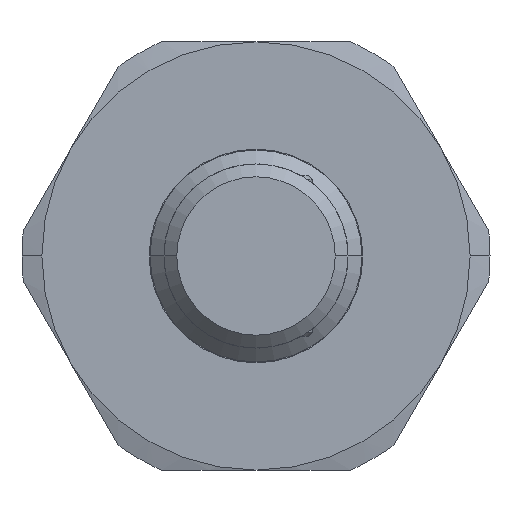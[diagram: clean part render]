
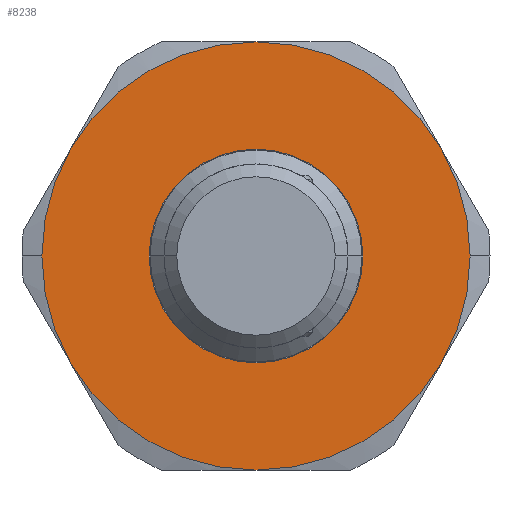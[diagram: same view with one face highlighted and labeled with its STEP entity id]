
A CAD part, left-side view. The second image highlights one B-rep face of the part: STEP entity #8238.
In plain terms, the highlighted planar face has unit normal (-1, 0, 0).
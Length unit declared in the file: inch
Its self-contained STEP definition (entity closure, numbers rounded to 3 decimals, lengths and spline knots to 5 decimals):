
#2708=CARTESIAN_POINT('',(-0.219,-0.5,0.));
#2709=VERTEX_POINT('',#2708);
#2716=CARTESIAN_POINT('',(-0.219,-0.43301,-0.25));
#2717=VERTEX_POINT('',#2716);
#2718=CARTESIAN_POINT('',(-0.219,0.0,0.0));
#2719=DIRECTION('',(-1.0,0.0,0.0));
#2720=DIRECTION('',(0.0,1.0,0.0));
#2721=AXIS2_PLACEMENT_3D('',#2718,#2719,#2720);
#2722=CIRCLE('',#2721,0.5);
#2723=EDGE_CURVE('',#2717,#2709,#2722,.T.);
#2755=CARTESIAN_POINT('',(-0.219,0.5,0.));
#2756=VERTEX_POINT('',#2755);
#2764=CARTESIAN_POINT('',(-0.219,0.43301,-0.25));
#2765=VERTEX_POINT('',#2764);
#2779=CARTESIAN_POINT('',(-0.219,0.0,0.0));
#2780=DIRECTION('',(-1.0,0.0,0.0));
#2781=DIRECTION('',(0.0,1.0,0.0));
#2782=AXIS2_PLACEMENT_3D('',#2779,#2780,#2781);
#2783=CIRCLE('',#2782,0.5);
#2784=EDGE_CURVE('',#2756,#2765,#2783,.T.);
#3198=CARTESIAN_POINT('',(-0.219,-0.2495,0.0));
#3199=VERTEX_POINT('',#3198);
#3208=CARTESIAN_POINT('',(-0.219,0.2495,0.));
#3209=VERTEX_POINT('',#3208);
#3210=CARTESIAN_POINT('',(-0.219,0.,0.0));
#3211=DIRECTION('',(1.0,0.0,0.0));
#3212=DIRECTION('',(0.0,-1.0,0.0));
#3213=AXIS2_PLACEMENT_3D('',#3210,#3211,#3212);
#3214=CIRCLE('',#3213,0.2495);
#3215=EDGE_CURVE('',#3209,#3199,#3214,.T.);
#7889=CARTESIAN_POINT('',(-0.219,0.,0.0));
#7890=DIRECTION('',(1.0,0.0,0.0));
#7891=DIRECTION('',(0.0,-1.0,0.0));
#7892=AXIS2_PLACEMENT_3D('',#7889,#7890,#7891);
#7893=CIRCLE('',#7892,0.2495);
#7894=EDGE_CURVE('',#3199,#3209,#7893,.T.);
#8175=CARTESIAN_POINT('',(-0.219,0.0,0.0));
#8176=DIRECTION('',(1.0,0.0,0.0));
#8177=DIRECTION('',(0.0,1.0,0.0));
#8178=AXIS2_PLACEMENT_3D('',#8175,#8176,#8177);
#8179=PLANE('',#8178);
#8180=CARTESIAN_POINT('',(-0.219,0.0,-0.5));
#8181=VERTEX_POINT('',#8180);
#8182=CARTESIAN_POINT('',(-0.219,0.0,0.0));
#8183=DIRECTION('',(-1.0,0.0,0.0));
#8184=DIRECTION('',(0.0,1.0,0.0));
#8185=AXIS2_PLACEMENT_3D('',#8182,#8183,#8184);
#8186=CIRCLE('',#8185,0.5);
#8187=EDGE_CURVE('',#2765,#8181,#8186,.T.);
#8188=ORIENTED_EDGE('',*,*,#8187,.T.);
#8189=CARTESIAN_POINT('',(-0.219,0.0,0.0));
#8190=DIRECTION('',(-1.0,0.0,0.0));
#8191=DIRECTION('',(0.0,1.0,0.0));
#8192=AXIS2_PLACEMENT_3D('',#8189,#8190,#8191);
#8193=CIRCLE('',#8192,0.5);
#8194=EDGE_CURVE('',#8181,#2717,#8193,.T.);
#8195=ORIENTED_EDGE('',*,*,#8194,.T.);
#8196=ORIENTED_EDGE('',*,*,#2723,.T.);
#8197=CARTESIAN_POINT('',(-0.219,-0.43301,0.25));
#8198=VERTEX_POINT('',#8197);
#8199=CARTESIAN_POINT('',(-0.219,0.0,0.0));
#8200=DIRECTION('',(-1.0,0.0,0.0));
#8201=DIRECTION('',(0.0,1.0,0.0));
#8202=AXIS2_PLACEMENT_3D('',#8199,#8200,#8201);
#8203=CIRCLE('',#8202,0.5);
#8204=EDGE_CURVE('',#2709,#8198,#8203,.T.);
#8205=ORIENTED_EDGE('',*,*,#8204,.T.);
#8206=CARTESIAN_POINT('',(-0.219,0.0,0.5));
#8207=VERTEX_POINT('',#8206);
#8208=CARTESIAN_POINT('',(-0.219,0.0,0.0));
#8209=DIRECTION('',(-1.0,0.0,0.0));
#8210=DIRECTION('',(0.0,1.0,0.0));
#8211=AXIS2_PLACEMENT_3D('',#8208,#8209,#8210);
#8212=CIRCLE('',#8211,0.5);
#8213=EDGE_CURVE('',#8198,#8207,#8212,.T.);
#8214=ORIENTED_EDGE('',*,*,#8213,.T.);
#8215=CARTESIAN_POINT('',(-0.219,0.43301,0.25));
#8216=VERTEX_POINT('',#8215);
#8217=CARTESIAN_POINT('',(-0.219,0.0,0.0));
#8218=DIRECTION('',(-1.0,0.0,0.0));
#8219=DIRECTION('',(0.0,1.0,0.0));
#8220=AXIS2_PLACEMENT_3D('',#8217,#8218,#8219);
#8221=CIRCLE('',#8220,0.5);
#8222=EDGE_CURVE('',#8207,#8216,#8221,.T.);
#8223=ORIENTED_EDGE('',*,*,#8222,.T.);
#8224=CARTESIAN_POINT('',(-0.219,0.0,0.0));
#8225=DIRECTION('',(-1.0,0.0,0.0));
#8226=DIRECTION('',(0.0,1.0,0.0));
#8227=AXIS2_PLACEMENT_3D('',#8224,#8225,#8226);
#8228=CIRCLE('',#8227,0.5);
#8229=EDGE_CURVE('',#8216,#2756,#8228,.T.);
#8230=ORIENTED_EDGE('',*,*,#8229,.T.);
#8231=ORIENTED_EDGE('',*,*,#2784,.T.);
#8232=EDGE_LOOP('',(#8188,#8195,#8196,#8205,#8214,#8223,#8230,#8231));
#8233=FACE_OUTER_BOUND('',#8232,.T.);
#8234=ORIENTED_EDGE('',*,*,#7894,.T.);
#8235=ORIENTED_EDGE('',*,*,#3215,.T.);
#8236=EDGE_LOOP('',(#8234,#8235));
#8237=FACE_BOUND('',#8236,.T.);
#8238=ADVANCED_FACE('',(#8233,#8237),#8179,.F.);
